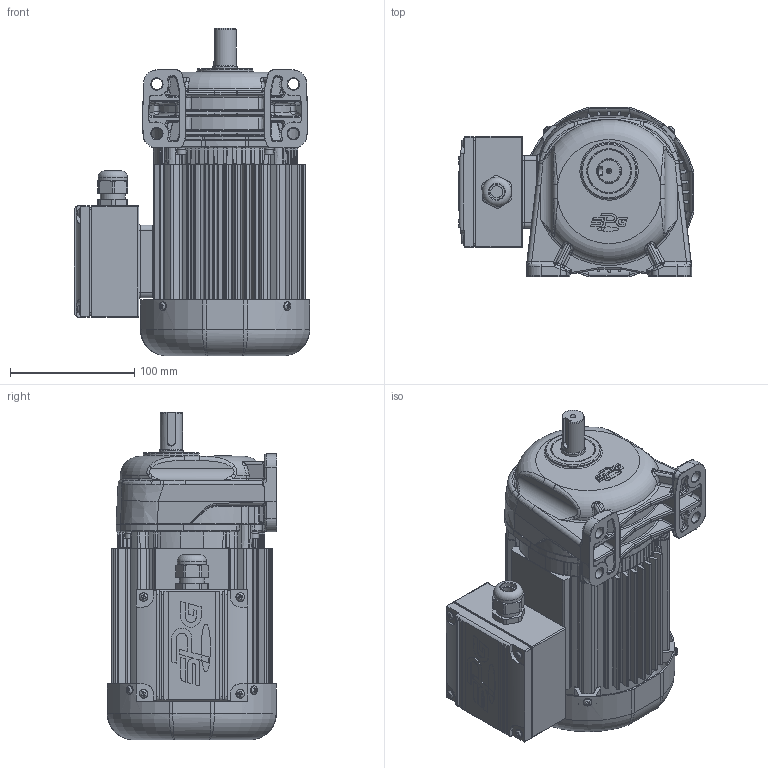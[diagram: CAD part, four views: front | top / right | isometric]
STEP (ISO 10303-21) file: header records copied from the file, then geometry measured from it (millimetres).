
FILE_DESCRIPTION(/* description */ (''),/* implementation_level */ '2;1');
FILE_NAME(/* name */ 'Z:\동력 3D 파일\PAL18-(5~25)-MA(B)020[ ]L_(3D).stp',/* time_stamp */ '2021-03-18T14:46:04+09:00',/* author */ ('jaebok'),/* organization */ (''),/* preprocessor_version */ 'ST-DEVELOPER v16.13',/* originating_system */ 'Autodesk Inventor 2018',/* authorisation */ '');
FILE_SCHEMA (('AUTOMOTIVE_DESIGN { 1 0 10303 214 3 1 1 }'));
Products named in the file (1): 부품109
Bounding box: 189.7 x 136.7 x 264 mm (x, y, z)
Volume: 1093944.3 mm3; surface area: 436846.3 mm2
Topology: 2 solids, 30 shells, 3308 faces, 8390 edges, 5051 vertices
Faces by surface type: plane 1011, cylinder 933, bspline 744, torus 316, cone 208, sphere 96
Full cylindrical faces by diameter (mm): 2 x1, 3.242 x9, 3.25 x1, 3.4 x4, 3.6 x4, 4 x25, 4.5 x4, 4.917 x4, 5 x16, 5.386 x4, 6 x8, 6.5 x4, 7 x16, 9 x4, 10 x1, 12 x1, 12.5 x1, 13 x1, 15 x1, 18 x1, 19.6 x1, 20 x5, 21 x3, 23 x2, 23.6 x1, 25 x1, 26 x1, 27 x1, 28 x3, 30 x2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
Entity records: 122491 total; most frequent: CARTESIAN_POINT 44719, DIRECTION 15750, ORIENTED_EDGE 15728, EDGE_CURVE 7859, AXIS2_PLACEMENT_3D 6585, VERTEX_POINT 4948, EDGE_LOOP 3741, CIRCLE 3316
